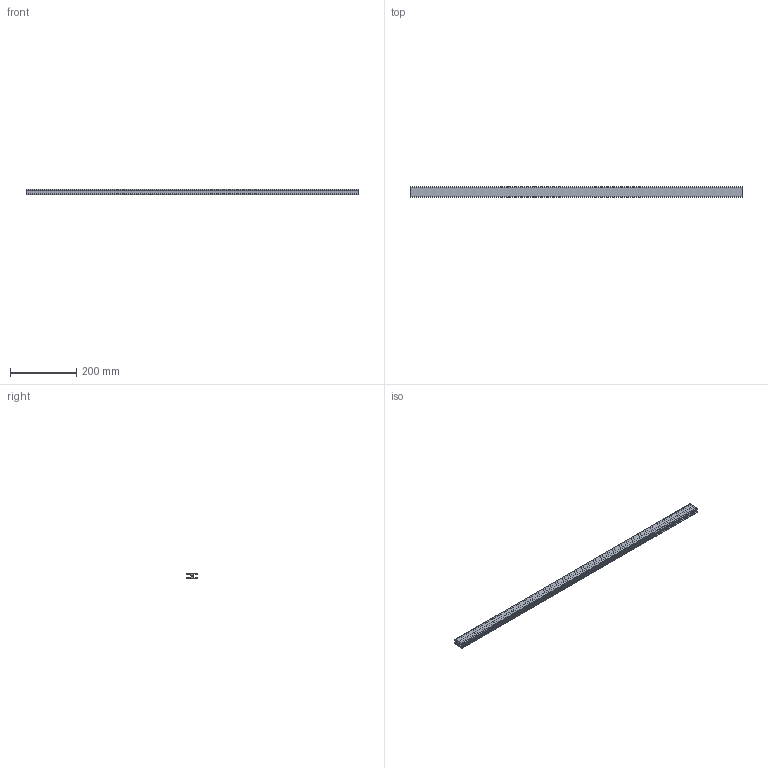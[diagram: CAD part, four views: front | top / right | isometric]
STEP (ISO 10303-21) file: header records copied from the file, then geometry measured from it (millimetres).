
FILE_DESCRIPTION (( 'STEP AP203' ), '1' );
FILE_NAME ('10267_KLE_3218.STEP', '2016-03-02T15:23:53', ( '' ), ( '' ), 'SwSTEP 2.0', 'SolidWorks 2015', '' );
FILE_SCHEMA (( 'CONFIG_CONTROL_DESIGN' ));
Length unit declared in the file: millimetre
Products named in the file (1): 10267_KLE_3218
Bounding box: 1000 x 32 x 18 mm (x, y, z)
Volume: 259082.8 mm3; surface area: 198098 mm2
Topology: 1 solids, 1 shells, 52 faces, 150 edges, 100 vertices
Faces by surface type: plane 32, cylinder 20
Entity records: 1795 total; most frequent: CARTESIAN_POINT 303, ORIENTED_EDGE 300, DIRECTION 296, EDGE_CURVE 150, VECTOR 110, LINE 110, VERTEX_POINT 100, AXIS2_PLACEMENT_3D 93
